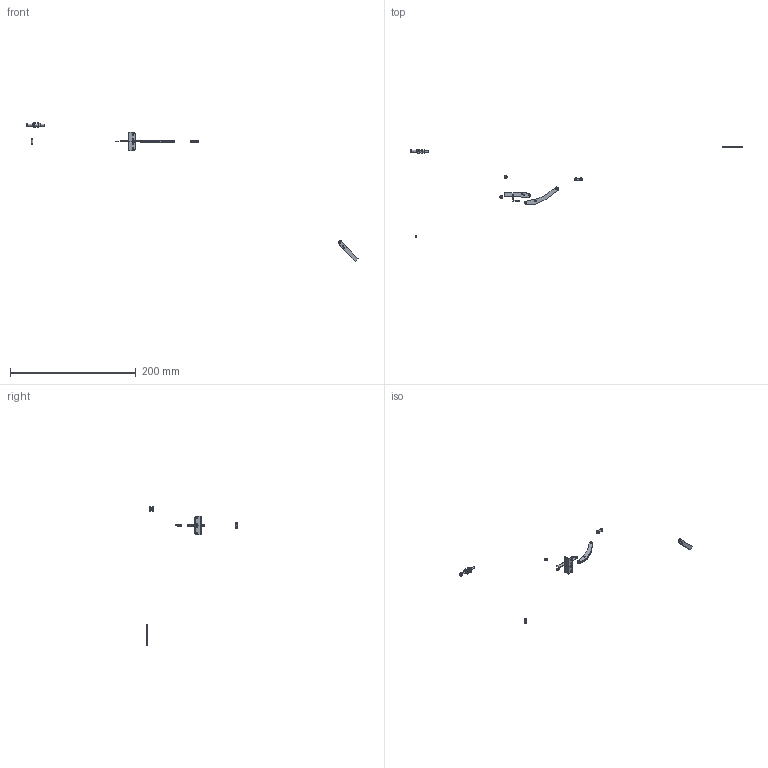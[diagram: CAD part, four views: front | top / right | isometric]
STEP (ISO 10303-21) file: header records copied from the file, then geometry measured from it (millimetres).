
FILE_DESCRIPTION(/* description */ (''),/* implementation_level */ '2;1');
FILE_NAME(/* name */ 'C:\Users\Nick\Desktop\J-200\3D\J-200 Open.stp',/* time_stamp */ '2015-09-03T16:24:08-04:00',/* author */ ('Nick'),/* organization */ (''),/* preprocessor_version */ 'ST-DEVELOPER v16.1',/* originating_system */ 'AutoCAD Mechanical',/* authorisation */ '');
FILE_SCHEMA (('AUTOMOTIVE_DESIGN { 1 0 10303 214 3 1 1 }'));
Length unit declared in the file: centimetre
Products named in the file (1): Product
Bounding box: 528.97 x 144.92 x 220.6 mm (x, y, z)
Volume: 3102.4 mm3; surface area: 6104.5 mm2
Topology: 23 solids, 23 shells, 260 faces, 605 edges, 392 vertices
Faces by surface type: plane 123, cylinder 102, cone 35
Full cylindrical faces by diameter (mm): 1.87 x9, 2.4 x2, 2.5 x7, 2.52 x2, 2.54 x10, 2.58 x2, 2.66 x4, 3.125 x1, 3.28 x2, 4.63 x2, 5 x3
Entity records: 7220 total; most frequent: CARTESIAN_POINT 1353, DIRECTION 1238, ORIENTED_EDGE 1096, EDGE_CURVE 548, AXIS2_PLACEMENT_3D 497, VERTEX_POINT 384, EDGE_LOOP 374, FACE_OUTER_BOUND 260
